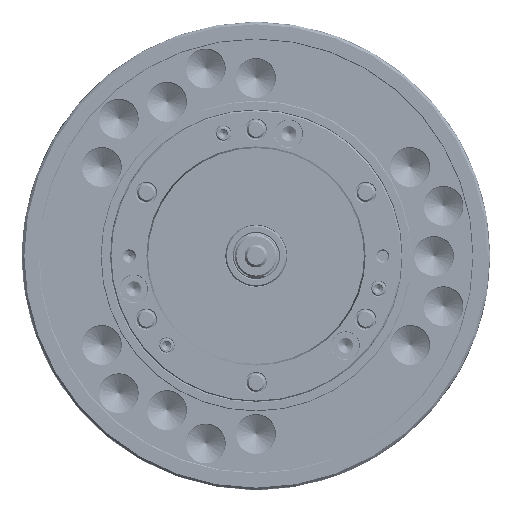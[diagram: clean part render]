
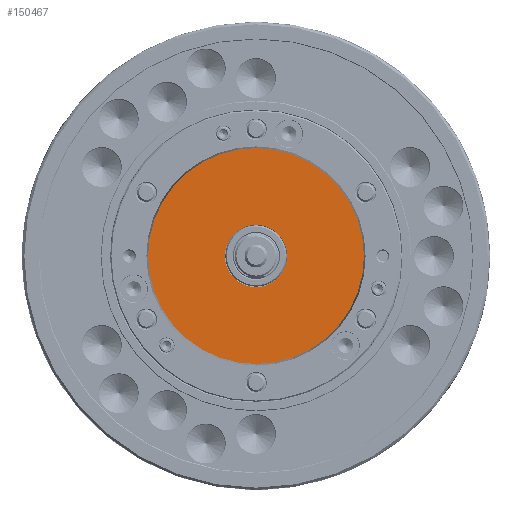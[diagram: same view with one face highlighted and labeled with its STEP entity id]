
A CAD part, left-side view. The second image highlights one B-rep face of the part: STEP entity #150467.
In plain terms, the highlighted planar face has unit normal (-1, 0, 0).
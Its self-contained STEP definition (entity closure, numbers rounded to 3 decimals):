
#8645 = CARTESIAN_POINT ( 'NONE',  ( -145., 0., -140.7 ) ) ;
#17011 = DIRECTION ( 'NONE',  ( 0., 0., -1. ) ) ;
#25703 = CARTESIAN_POINT ( 'NONE',  ( -145., 0., 140.7 ) ) ;
#34226 = EDGE_CURVE ( 'NONE', #253785, #51059, #132803, .T. ) ;
#44803 = CARTESIAN_POINT ( 'NONE',  ( -145., 0., 0. ) ) ;
#48767 = CARTESIAN_POINT ( 'NONE',  ( -145., 0., -40.6 ) ) ;
#51059 = VERTEX_POINT ( 'NONE', #25703 ) ;
#56372 = CIRCLE ( 'NONE', #65343, 140.7 ) ;
#57698 = AXIS2_PLACEMENT_3D ( 'NONE', #164768, #159233, #141150 ) ;
#65343 = AXIS2_PLACEMENT_3D ( 'NONE', #44803, #68400, #153271 ) ;
#68400 = DIRECTION ( 'NONE',  ( -1., 0., 0. ) ) ;
#75307 = DIRECTION ( 'NONE',  ( -1., 0., 0. ) ) ;
#76958 = PLANE ( 'NONE',  #259139 ) ;
#81962 = CIRCLE ( 'NONE', #264114, 40.6 ) ;
#84154 = ORIENTED_EDGE ( 'NONE', *, *, #186902, .F. ) ;
#88654 = ORIENTED_EDGE ( 'NONE', *, *, #236602, .T. ) ;
#92120 = DIRECTION ( 'NONE',  ( 0., 0., 1. ) ) ;
#110580 = AXIS2_PLACEMENT_3D ( 'NONE', #141996, #225527, #226899 ) ;
#132803 = CIRCLE ( 'NONE', #110580, 140.7 ) ;
#133766 = EDGE_LOOP ( 'NONE', ( #88654, #213258 ) ) ;
#139340 = VERTEX_POINT ( 'NONE', #238829 ) ;
#141150 = DIRECTION ( 'NONE',  ( 0., 0., 1. ) ) ;
#141996 = CARTESIAN_POINT ( 'NONE',  ( -145., 0., 0. ) ) ;
#144650 = ORIENTED_EDGE ( 'NONE', *, *, #146559, .F. ) ;
#146559 = EDGE_CURVE ( 'NONE', #139340, #249082, #81962, .T. ) ;
#150467 = ADVANCED_FACE ( 'NONE', ( #228623, #224492 ), #76958, .F. ) ;
#153271 = DIRECTION ( 'NONE',  ( 0., 0., 1. ) ) ;
#159233 = DIRECTION ( 'NONE',  ( -1., 0., 0. ) ) ;
#161825 = CARTESIAN_POINT ( 'NONE',  ( -145., 140.7, 0. ) ) ;
#164768 = CARTESIAN_POINT ( 'NONE',  ( -145., 0., 0. ) ) ;
#186902 = EDGE_CURVE ( 'NONE', #249082, #139340, #270810, .T. ) ;
#199235 = CARTESIAN_POINT ( 'NONE',  ( -145., 0., 0. ) ) ;
#213258 = ORIENTED_EDGE ( 'NONE', *, *, #34226, .T. ) ;
#224492 = FACE_OUTER_BOUND ( 'NONE', #133766, .T. ) ;
#225527 = DIRECTION ( 'NONE',  ( -1., 0., 0. ) ) ;
#226899 = DIRECTION ( 'NONE',  ( 0., 0., 1. ) ) ;
#228623 = FACE_BOUND ( 'NONE', #258560, .T. ) ;
#236602 = EDGE_CURVE ( 'NONE', #51059, #253785, #56372, .T. ) ;
#238829 = CARTESIAN_POINT ( 'NONE',  ( -145., 0., 40.6 ) ) ;
#246752 = DIRECTION ( 'NONE',  ( 1., 0., 0. ) ) ;
#249082 = VERTEX_POINT ( 'NONE', #48767 ) ;
#253785 = VERTEX_POINT ( 'NONE', #8645 ) ;
#258560 = EDGE_LOOP ( 'NONE', ( #144650, #84154 ) ) ;
#259139 = AXIS2_PLACEMENT_3D ( 'NONE', #161825, #246752, #17011 ) ;
#264114 = AXIS2_PLACEMENT_3D ( 'NONE', #199235, #75307, #92120 ) ;
#270810 = CIRCLE ( 'NONE', #57698, 40.6 ) ;
